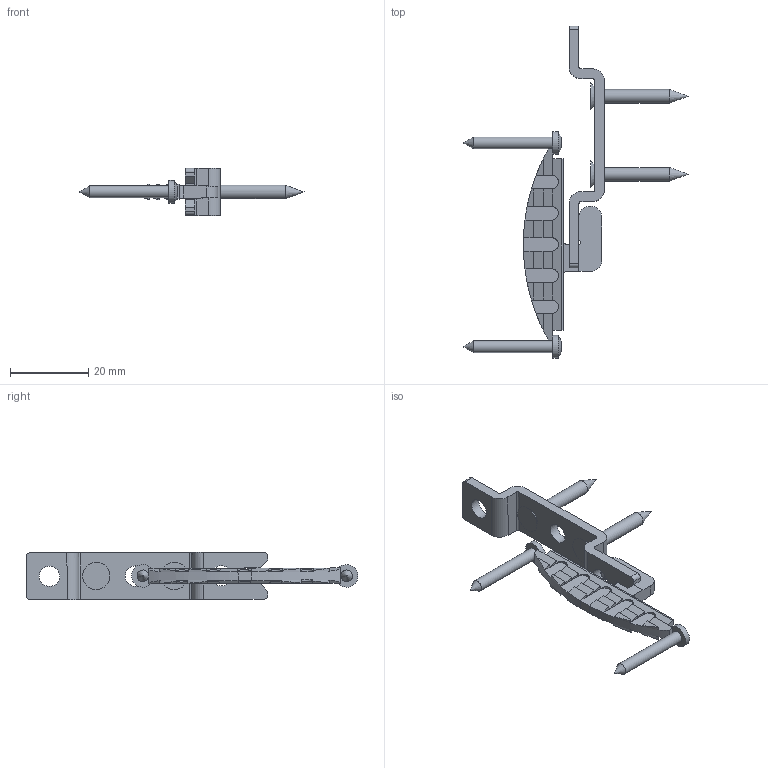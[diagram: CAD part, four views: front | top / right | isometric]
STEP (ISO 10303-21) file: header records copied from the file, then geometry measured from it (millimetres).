
FILE_DESCRIPTION(/* description */ ('Unknown'),/* implementation_level */ '2;1');
FILE_NAME(/* name */ 'Kombi_Hakenlamelle_verschraubt_28042020_',/* time_stamp */ '2020-05-04T15:56:30+02:00',/* author */ ('Unknown'),/* organization */ ('Unknown'),/* preprocessor_version */ 'ST-DEVELOPER v16.7',/* originating_system */ 'DEX',/* authorisation */ $);
FILE_SCHEMA (('AUTOMOTIVE_DESIGN {1 0 10303 214 3 1 1}'));
Length unit declared in the file: millimetre
Products named in the file (5): Kombi_Hakenlamelle_verschraubt_28042020_; Kombi_Hackenlamelle_10; PH Schraube 3x25_ohne Gewinde; Kombi_GD1260V1; SK Schraube 3,5x25_ohne Gewinde
Assembly tree (6 placements, depth 2):
  Kombi_Hakenlamelle_verschraubt_28042020_
    Kombi_Hackenlamelle_10
    PH Schraube 3x25_ohne Gewinde  x2
    Kombi_GD1260V1
    SK Schraube 3,5x25_ohne Gewinde  x2
Bounding box: 57.5 x 85.1 x 12.17 mm (x, y, z)
Volume: 4169.1 mm3; surface area: 4984.2 mm2
Topology: 6 solids, 6 shells, 246 faces, 672 edges, 447 vertices
Faces by surface type: plane 189, cylinder 41, bspline 10, cone 6
Full cylindrical faces by diameter (mm): 3 x2, 3.5 x2, 5.2 x5, 5.8 x2
Entity records: 7737 total; most frequent: CARTESIAN_POINT 1639, ORIENTED_EDGE 1274, DIRECTION 1173, EDGE_CURVE 637, LINE 453, VECTOR 453, VERTEX_POINT 432, AXIS2_PLACEMENT_3D 360
